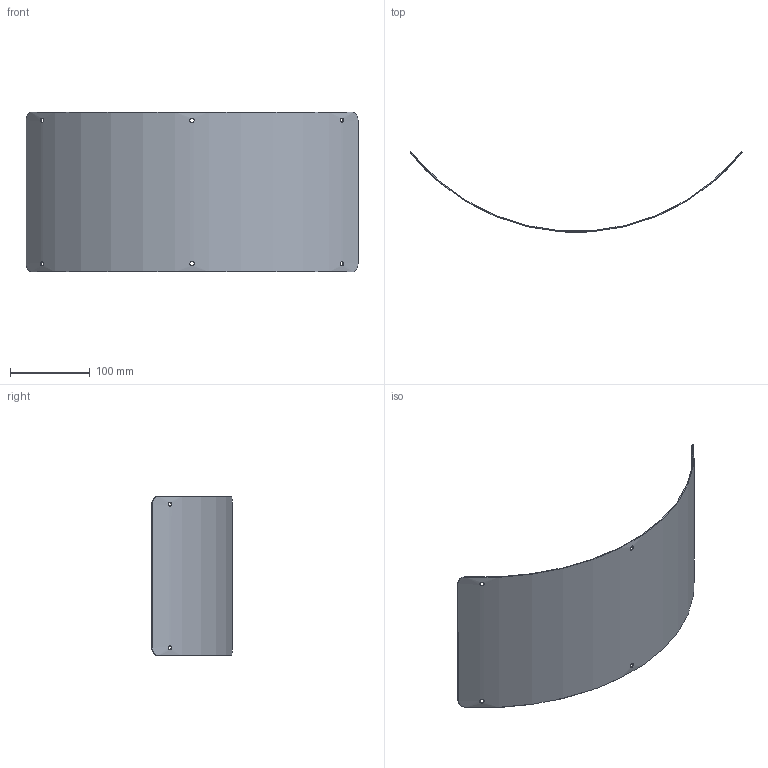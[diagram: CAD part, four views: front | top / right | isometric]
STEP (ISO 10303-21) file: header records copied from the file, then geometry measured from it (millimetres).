
FILE_DESCRIPTION (( 'STEP AP203' ), '1' );
FILE_NAME ('YWSD-2026-03-01=001 打磨主体盖板.STEP', '2026-07-24T07:42:43', ( 'Windows 用户' ), ( '' ), 'SwSTEP 2.0', 'SolidWorks 2024', '' );
FILE_SCHEMA (( 'CONFIG_CONTROL_DESIGN' ));
Length unit declared in the file: millimetre
Products named in the file (1): YWSD-2026-03-01=001 打磨主体盖板
Bounding box: 416.29 x 101 x 200 mm (x, y, z)
Volume: 95211.5 mm3; surface area: 191863.7 mm2
Topology: 1 solids, 1 shells, 22 faces, 60 edges, 40 vertices
Faces by surface type: cylinder 18, plane 4
Entity records: 1685 total; most frequent: CARTESIAN_POINT 1083, ORIENTED_EDGE 120, DIRECTION 78, EDGE_CURVE 60, VERTEX_POINT 40, EDGE_LOOP 34, B_SPLINE_CURVE_WITH_KNOTS 32, AXIS2_PLACEMENT_3D 27
